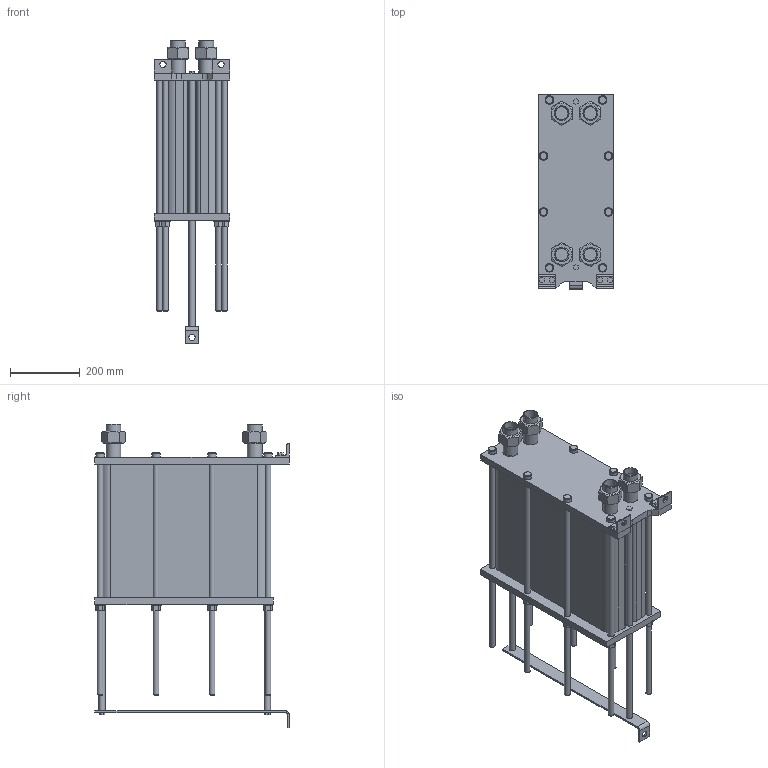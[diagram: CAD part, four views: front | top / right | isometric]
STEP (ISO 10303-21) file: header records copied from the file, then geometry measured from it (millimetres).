
FILE_DESCRIPTION(/* description */ (''),/* implementation_level */ '2;1');
FILE_NAME(/* name */ 'C:\Users\zhuro\Desktop\ENCO\TO\ЭН-004\ЭН-0,5-004-123-1.stp',/* time_stamp */ '2022-06-06T10:54:54+03:00',/* author */ ('zhuro'),/* organization */ (''),/* preprocessor_version */ 'ST-DEVELOPER v18.1',/* originating_system */ 'Autodesk Inventor 2022',/* authorisation */ '');
FILE_SCHEMA (('AUTOMOTIVE_DESIGN { 1 0 10303 214 3 1 1 }'));
Length unit declared in the file: millimetre
Products named in the file (1): ЭН-0,5-004-123-1
Bounding box: 216 x 555 x 867.4 mm (x, y, z)
Volume: 34431319.9 mm3; surface area: 1784158.6 mm2
Topology: 40 solids, 40 shells, 403 faces, 865 edges, 574 vertices
Faces by surface type: plane 272, cylinder 103, cone 28
Full cylindrical faces by diameter (mm): 10 x4, 16 x16, 18 x29, 20 x2, 24 x8, 28 x8, 36.3 x5, 42.3 x9
Entity records: 11137 total; most frequent: CARTESIAN_POINT 1939, DIRECTION 1879, ORIENTED_EDGE 1730, EDGE_CURVE 865, AXIS2_PLACEMENT_3D 658, VERTEX_POINT 574, LINE 563, VECTOR 563
